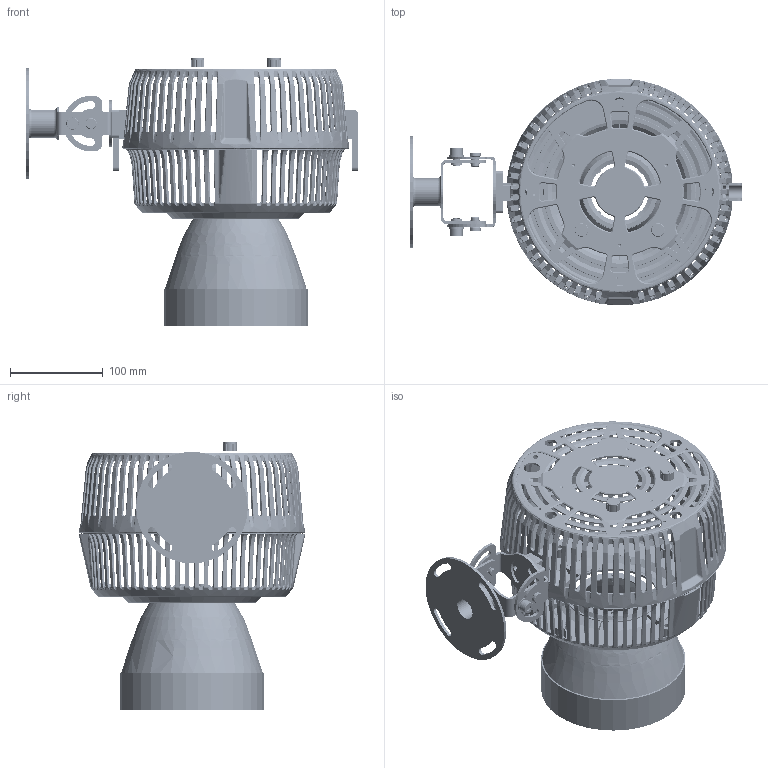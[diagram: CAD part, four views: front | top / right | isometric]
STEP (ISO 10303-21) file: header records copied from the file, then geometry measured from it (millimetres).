
FILE_DESCRIPTION (( 'STEP AP214' ), '1' );
FILE_NAME ('W2KB-PVT-Fixture2.STEP', '2024-02-29T19:49:00', ( '' ), ( '' ), 'SwSTEP 2.0', 'SolidWorks 2022', '' );
FILE_SCHEMA (( 'AUTOMOTIVE_DESIGN' ));
Length unit declared in the file: millimetre
Products named in the file (18): 5022530-2022-01-10___^W2KB-PVT-Fixture.STEP; WASHER ID4.2,OD10,T=1___.STEP; 5022642_A2_C Circlip, ID=7.4mm___^PIVOT Mount____W2KB-PVT-Fixture.STEP; 5021926_A1_KNOB, 18T, OD=14.9, ID=6, L=10MM___^W2KB-PVT-Fixture.STEP; 5022640_A1_Single Arm Axis, L=15mm___^PIVOT Mount____W2KB-PVT-Fixture.STEP; ID8,OD16,T1.5 WASHER___^PIVOT Mount____W2KB-PVT-Fixture.STEP; PIVOT Mount___^W2KB-PVT-Fixture.STEP; W2KB-PVT-Fixture2; SCREW, PAN HEAD SUS-304, M4.0 x L5mm___.STEP; 5022531_X1_BOTTOM HOUSING FOR W2K&A2K^W2KB-PVT-Fixture.STEP; SCREW, M8 L8 CAP HEAD, HEX SOCKET, SUS, BLACK___^PIVOT Mount____W2KB-PVT-Fixture.STEP; SCREW, M8 L8 CAP HEAD, HEX SOCKET, SUS, BLACK___.STEP; 5022496_X2_Yoke Adapter___^W2KB-PVT-Fixture.STEP; 5022644_A1_REFLECTOR-50 FOR W2K___.STEP; REFLECTOR-50___.STEP; 5022497_X1_Single Arm Base___^PIVOT Mount____W2KB-PVT-Fixture.STEP; 5022499_X2_Single Arm Pivot Base___^W2KB-PVT-Fixture.STEP; 5022498_X1_Single Arm Pivot___^PIVOT Mount____W2KB-PVT-Fixture.STEP
Assembly tree (29 placements, depth 3):
  W2KB-PVT-Fixture2
    PIVOT Mount___^W2KB-PVT-Fixture.STEP
      5022497_X1_Single Arm Base___^PIVOT Mount____W2KB-PVT-Fixture.STEP
      5022498_X1_Single Arm Pivot___^PIVOT Mount____W2KB-PVT-Fixture.STEP
      5022640_A1_Single Arm Axis, L=15mm___^PIVOT Mount____W2KB-PVT-Fixture.STEP  x2
      5022642_A2_C Circlip, ID=7.4mm___^PIVOT Mount____W2KB-PVT-Fixture.STEP  x2
      SCREW, M8 L8 CAP HEAD, HEX SOCKET, SUS, BLACK___^PIVOT Mount____W2KB-PVT-Fixture.STEP  x2
      ID8,OD16,T1.5 WASHER___^PIVOT Mount____W2KB-PVT-Fixture.STEP  x2
    REFLECTOR-50___.STEP
      5022644_A1_REFLECTOR-50 FOR W2K___.STEP
      SCREW, PAN HEAD SUS-304, M4.0 x L5mm___.STEP  x4
      WASHER ID4.2,OD10,T=1___.STEP  x4
    5022531_X1_BOTTOM HOUSING FOR W2K&A2K^W2KB-PVT-Fixture.STEP
    5022496_X2_Yoke Adapter___^W2KB-PVT-Fixture.STEP  x2
    5022530-2022-01-10___^W2KB-PVT-Fixture.STEP
    5021926_A1_KNOB, 18T, OD=14.9, ID=6, L=10MM___^W2KB-PVT-Fixture.STEP  x2
    SCREW, M8 L8 CAP HEAD, HEX SOCKET, SUS, BLACK___.STEP
    5022499_X2_Single Arm Pivot Base___^W2KB-PVT-Fixture.STEP
Bounding box: 357 x 243.79 x 288.3 mm (x, y, z)
Volume: 505659.9 mm3; surface area: 511907.1 mm2
Topology: 27 solids, 27 shells, 5826 faces, 15385 edges, 9431 vertices
Faces by surface type: bspline 2309, plane 1340, cylinder 1248, torus 469, cone 460
Entity records: 283742 total; most frequent: CARTESIAN_POINT 173048, ORIENTED_EDGE 27404, DIRECTION 17761, EDGE_CURVE 13702, VERTEX_POINT 8319, AXIS2_PLACEMENT_3D 7595, B_SPLINE_CURVE_WITH_KNOTS 6263, EDGE_LOOP 5441
